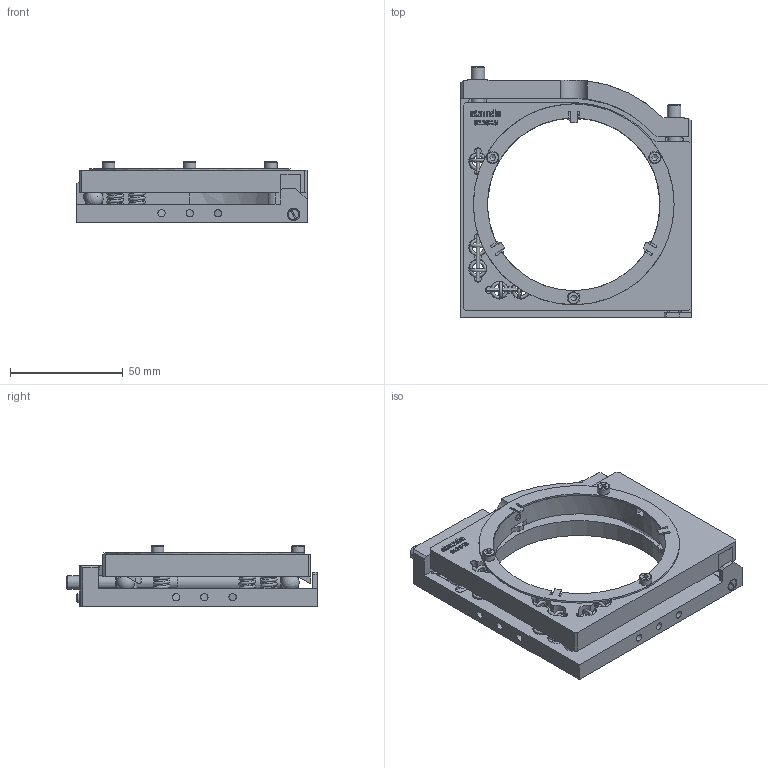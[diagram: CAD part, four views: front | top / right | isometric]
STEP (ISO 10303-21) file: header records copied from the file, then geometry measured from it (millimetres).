
FILE_DESCRIPTION(/* description */ (''),/* implementation_level */ '2;1');
FILE_NAME(/* name */ '5KVDOM-3.stp',/* time_stamp */ '2024-03-07T11:08:01+02:00',/* author */ ('dsgn36'),/* organization */ (''),/* preprocessor_version */ 'ST-DEVELOPER v20',/* originating_system */ 'Autodesk Inventor 2024',/* authorisation */ '');
FILE_SCHEMA (('AUTOMOTIVE_DESIGN { 1 0 10303 214 3 1 1 }'));
Length unit declared in the file: millimetre
Products named in the file (1): 5KVDOM-3 SB_Simplify_1
Bounding box: 102 x 110.98 x 26.8 mm (x, y, z)
Volume: 87721.8 mm3; surface area: 44167.5 mm2
Topology: 9 solids, 9 shells, 783 faces, 2190 edges, 1424 vertices
Faces by surface type: plane 408, cylinder 158, bspline 139, cone 53, torus 13, sphere 12
Full cylindrical faces by diameter (mm): 1.2 x10, 1.5 x1, 2 x1, 2.013 x1, 2.459 x7, 2.5 x1, 2.9 x1, 3 x5, 3.242 x8, 4 x2, 4.76 x2, 5.5 x4, 6 x6, 8 x10, 80 x1, 89 x1
Entity records: 32967 total; most frequent: CARTESIAN_POINT 12588, ORIENTED_EDGE 4330, DIRECTION 3640, EDGE_CURVE 2165, VERTEX_POINT 1448, LINE 1236, VECTOR 1236, AXIS2_PLACEMENT_3D 1202
